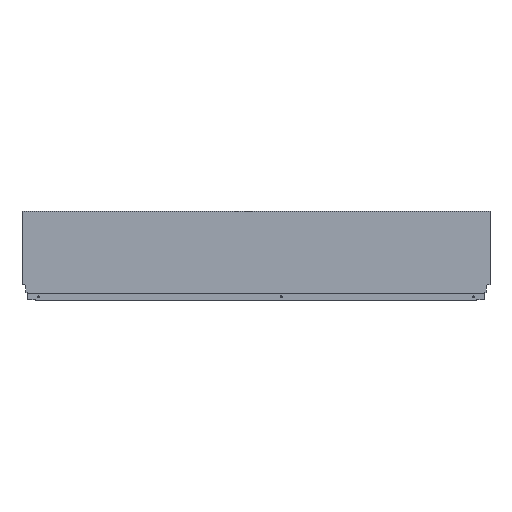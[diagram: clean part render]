
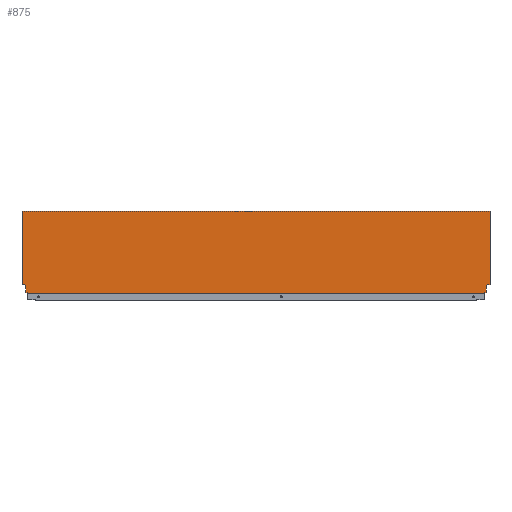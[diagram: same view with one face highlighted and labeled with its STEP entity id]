
A CAD part, top view. The second image highlights one B-rep face of the part: STEP entity #875.
In plain terms, the highlighted planar face has unit normal (0, 0, 1).
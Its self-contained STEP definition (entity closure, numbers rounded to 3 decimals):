
#160 = ORIENTED_EDGE ( 'NONE', *, *, #754, .F. ) ;
#161 = ORIENTED_EDGE ( 'NONE', *, *, #751, .F. ) ;
#162 = ORIENTED_EDGE ( 'NONE', *, *, #756, .F. ) ;
#163 = ORIENTED_EDGE ( 'NONE', *, *, #758, .F. ) ;
#164 = ORIENTED_EDGE ( 'NONE', *, *, #760, .F. ) ;
#165 = ORIENTED_EDGE ( 'NONE', *, *, #753, .F. ) ;
#166 = ORIENTED_EDGE ( 'NONE', *, *, #755, .F. ) ;
#167 = ORIENTED_EDGE ( 'NONE', *, *, #765, .T. ) ;
#168 = ORIENTED_EDGE ( 'NONE', *, *, #763, .F. ) ;
#169 = ORIENTED_EDGE ( 'NONE', *, *, #764, .F. ) ;
#170 = ORIENTED_EDGE ( 'NONE', *, *, #757, .F. ) ;
#171 = ORIENTED_EDGE ( 'NONE', *, *, #766, .F. ) ;
#172 = ORIENTED_EDGE ( 'NONE', *, *, #759, .F. ) ;
#173 = ORIENTED_EDGE ( 'NONE', *, *, #762, .T. ) ;
#312 = EDGE_LOOP ( 'NONE', ( #173, #172, #171, #170, #169, #168, #167, #166, #165, #164, #163, #162, #161, #160 ) ) ;
#373 = CARTESIAN_POINT ( 'NONE',  ( -8.9, 2.64, 7.5 ) ) ;
#396 = CARTESIAN_POINT ( 'NONE',  ( -1109.94, 21.2, 7.5 ) ) ;
#408 = CARTESIAN_POINT ( 'NONE',  ( -1103.996, 0., 7.5 ) ) ;
#409 = CARTESIAN_POINT ( 'NONE',  ( -8.9, 10.765, 7.5 ) ) ;
#420 = CARTESIAN_POINT ( 'NONE',  ( -13.004, 0., 7.5 ) ) ;
#434 = CARTESIAN_POINT ( 'NONE',  ( 0., 21.2, 7.5 ) ) ;
#446 = CARTESIAN_POINT ( 'NONE',  ( -1103.996, 1.146, 7.5 ) ) ;
#454 = CARTESIAN_POINT ( 'NONE',  ( -7.06, 21.2, 7.5 ) ) ;
#457 = CARTESIAN_POINT ( 'NONE',  ( -1108.1, 10.765, 7.5 ) ) ;
#459 = CARTESIAN_POINT ( 'NONE',  ( -13.004, 1.146, 7.5 ) ) ;
#462 = CARTESIAN_POINT ( 'NONE',  ( -1117., 196.7, 7.5 ) ) ;
#466 = CARTESIAN_POINT ( 'NONE',  ( -1117., 21.2, 7.5 ) ) ;
#470 = CARTESIAN_POINT ( 'NONE',  ( 0., 196.7, 7.5 ) ) ;
#478 = CARTESIAN_POINT ( 'NONE',  ( -1108.1, 2.64, 7.5 ) ) ;
#506 = DIRECTION ( 'NONE',  ( 1., 0., 0. ) ) ;
#507 = DIRECTION ( 'NONE',  ( 0., 0., 1. ) ) ;
#511 = CARTESIAN_POINT ( 'NONE',  ( -1108.1, 2.64, 7.5 ) ) ;
#517 = CARTESIAN_POINT ( 'NONE',  ( -1117., 0., 7.5 ) ) ;
#520 = PLANE ( 'NONE',  #824 ) ;
#545 = CARTESIAN_POINT ( 'NONE',  ( -1109.94, 21.2, 7.5 ) ) ;
#553 = DIRECTION ( 'NONE',  ( -0.174, 0.985, 0. ) ) ;
#615 = DIRECTION ( 'NONE',  ( -0.94, 0.342, 0. ) ) ;
#625 = DIRECTION ( 'NONE',  ( 0., 1., 0. ) ) ;
#644 = DIRECTION ( 'NONE',  ( 1., 0., 0. ) ) ;
#646 = CARTESIAN_POINT ( 'NONE',  ( -1117., 0., 7.5 ) ) ;
#751 = EDGE_CURVE ( 'NONE', #925, #1005, #1483, .T. ) ;
#753 = EDGE_CURVE ( 'NONE', #1218, #950, #1479, .T. ) ;
#754 = EDGE_CURVE ( 'NONE', #943, #925, #1477, .T. ) ;
#755 = EDGE_CURVE ( 'NONE', #950, #1048, #1475, .T. ) ;
#756 = EDGE_CURVE ( 'NONE', #1005, #963, #1473, .T. ) ;
#757 = EDGE_CURVE ( 'NONE', #902, #955, #1471, .T. ) ;
#758 = EDGE_CURVE ( 'NONE', #963, #1093, #1469, .T. ) ;
#759 = EDGE_CURVE ( 'NONE', #1132, #937, #1467, .T. ) ;
#760 = EDGE_CURVE ( 'NONE', #1093, #1218, #1465, .T. ) ;
#762 = EDGE_CURVE ( 'NONE', #943, #937, #1461, .T. ) ;
#763 = EDGE_CURVE ( 'NONE', #1097, #977, #1497, .T. ) ;
#764 = EDGE_CURVE ( 'NONE', #977, #902, #1457, .T. ) ;
#765 = EDGE_CURVE ( 'NONE', #1097, #1048, #1455, .T. ) ;
#766 = EDGE_CURVE ( 'NONE', #955, #1132, #1453, .T. ) ;
#824 = AXIS2_PLACEMENT_3D ( 'NONE', #517, #507, #506 ) ;
#875 = ADVANCED_FACE ( 'NONE', ( #1400 ), #520, .T. ) ;
#883 = DIRECTION ( 'NONE',  ( 0., -1., 0. ) ) ;
#884 = CARTESIAN_POINT ( 'NONE',  ( -1117., 0., 7.5 ) ) ;
#889 = DIRECTION ( 'NONE',  ( 0., -1., 0. ) ) ;
#890 = CARTESIAN_POINT ( 'NONE',  ( -8.9, 10.765, 7.5 ) ) ;
#891 = DIRECTION ( 'NONE',  ( -1., 0., 0. ) ) ;
#892 = CARTESIAN_POINT ( 'NONE',  ( -1122., 21.2, 7.5 ) ) ;
#894 = DIRECTION ( 'NONE',  ( -0.174, -0.985, 0. ) ) ;
#896 = CARTESIAN_POINT ( 'NONE',  ( -7.06, 21.2, 7.5 ) ) ;
#897 = DIRECTION ( 'NONE',  ( 0., 1., 0. ) ) ;
#899 = CARTESIAN_POINT ( 'NONE',  ( -1108.1, 10.765, 7.5 ) ) ;
#900 = DIRECTION ( 'NONE',  ( -1., 0., 0. ) ) ;
#901 = CARTESIAN_POINT ( 'NONE',  ( 0., 21.2, 7.5 ) ) ;
#902 = VERTEX_POINT ( 'NONE', #478 ) ;
#903 = DIRECTION ( 'NONE',  ( 0., -1., 0. ) ) ;
#904 = CARTESIAN_POINT ( 'NONE',  ( -13.004, 1.146, 7.5 ) ) ;
#906 = DIRECTION ( 'NONE',  ( 1., 0., 0. ) ) ;
#907 = CARTESIAN_POINT ( 'NONE',  ( -1117., 196.7, 7.5 ) ) ;
#909 = DIRECTION ( 'NONE',  ( -0.94, -0.342, 0. ) ) ;
#910 = CARTESIAN_POINT ( 'NONE',  ( -8.9, 2.64, 7.5 ) ) ;
#915 = DIRECTION ( 'NONE',  ( 0., -1., 0. ) ) ;
#916 = CARTESIAN_POINT ( 'NONE',  ( 0., 0., 7.5 ) ) ;
#920 = CARTESIAN_POINT ( 'NONE',  ( -1103.996, 1.146, 7.5 ) ) ;
#925 = VERTEX_POINT ( 'NONE', #470 ) ;
#937 = VERTEX_POINT ( 'NONE', #466 ) ;
#943 = VERTEX_POINT ( 'NONE', #462 ) ;
#950 = VERTEX_POINT ( 'NONE', #459 ) ;
#955 = VERTEX_POINT ( 'NONE', #457 ) ;
#963 = VERTEX_POINT ( 'NONE', #454 ) ;
#977 = VERTEX_POINT ( 'NONE', #446 ) ;
#1005 = VERTEX_POINT ( 'NONE', #434 ) ;
#1048 = VERTEX_POINT ( 'NONE', #420 ) ;
#1093 = VERTEX_POINT ( 'NONE', #409 ) ;
#1097 = VERTEX_POINT ( 'NONE', #408 ) ;
#1132 = VERTEX_POINT ( 'NONE', #396 ) ;
#1218 = VERTEX_POINT ( 'NONE', #373 ) ;
#1400 = FACE_OUTER_BOUND ( 'NONE', #312, .T. ) ;
#1452 = VECTOR ( 'NONE', #553, 1000. ) ;
#1453 = LINE ( 'NONE', #545, #1452 ) ;
#1454 = VECTOR ( 'NONE', #644, 1000. ) ;
#1455 = LINE ( 'NONE', #646, #1454 ) ;
#1456 = VECTOR ( 'NONE', #615, 1000. ) ;
#1457 = LINE ( 'NONE', #511, #1456 ) ;
#1459 = VECTOR ( 'NONE', #625, 1000. ) ;
#1460 = VECTOR ( 'NONE', #883, 1000. ) ;
#1461 = LINE ( 'NONE', #884, #1460 ) ;
#1464 = VECTOR ( 'NONE', #889, 1000. ) ;
#1465 = LINE ( 'NONE', #890, #1464 ) ;
#1466 = VECTOR ( 'NONE', #891, 1000. ) ;
#1467 = LINE ( 'NONE', #892, #1466 ) ;
#1468 = VECTOR ( 'NONE', #894, 1000. ) ;
#1469 = LINE ( 'NONE', #896, #1468 ) ;
#1470 = VECTOR ( 'NONE', #897, 1000. ) ;
#1471 = LINE ( 'NONE', #899, #1470 ) ;
#1472 = VECTOR ( 'NONE', #900, 1000. ) ;
#1473 = LINE ( 'NONE', #901, #1472 ) ;
#1474 = VECTOR ( 'NONE', #903, 1000. ) ;
#1475 = LINE ( 'NONE', #904, #1474 ) ;
#1476 = VECTOR ( 'NONE', #906, 1000. ) ;
#1477 = LINE ( 'NONE', #907, #1476 ) ;
#1478 = VECTOR ( 'NONE', #909, 1000. ) ;
#1479 = LINE ( 'NONE', #910, #1478 ) ;
#1482 = VECTOR ( 'NONE', #915, 1000. ) ;
#1483 = LINE ( 'NONE', #916, #1482 ) ;
#1497 = LINE ( 'NONE', #920, #1459 ) ;
